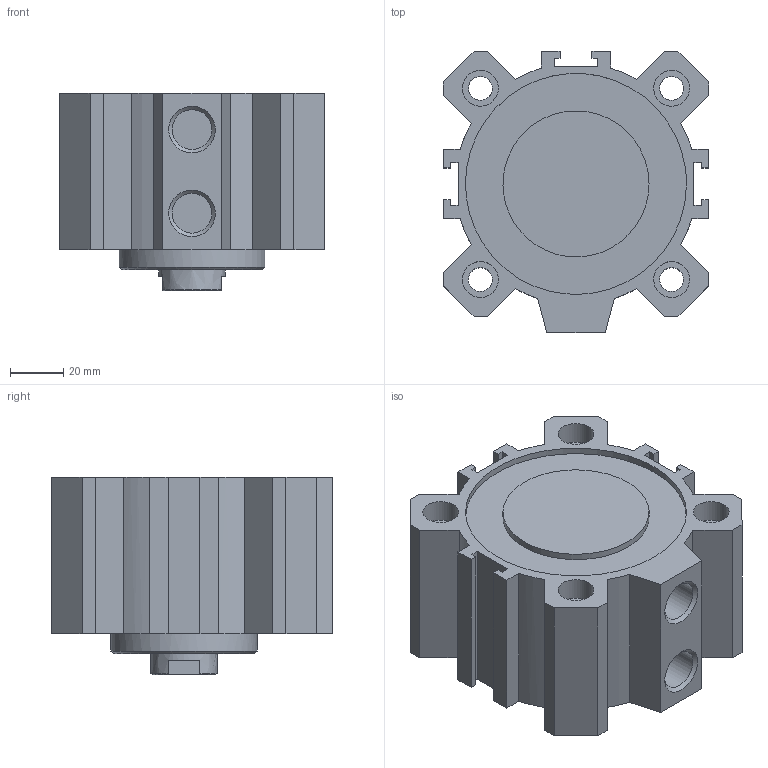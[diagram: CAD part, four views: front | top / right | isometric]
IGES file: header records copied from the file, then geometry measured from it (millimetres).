
Global section: file name: 1511_80_0010; native system: Autodesk Inventor 2014; preprocessor: unknown; author: A. Manieri; date: 20160824.142115; units: millimetre
Bounding box: 100 x 106 x 74.5 mm (x, y, z)
Volume: 436300.6 mm3; surface area: 95521.5 mm2
Topology: 2 solids, 2 shells, 119 faces, 307 edges, 210 vertices
Faces by surface type: bspline 119
